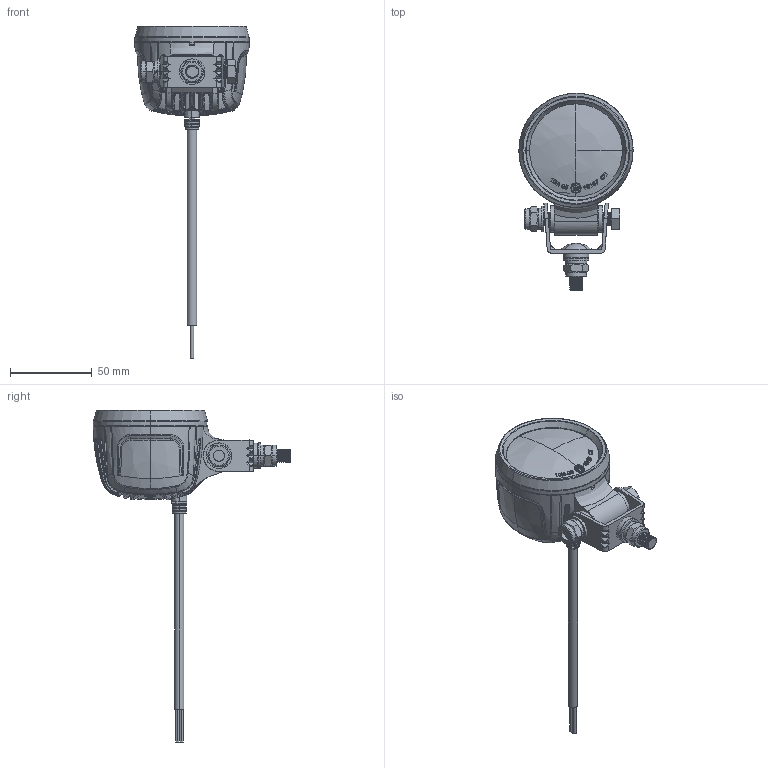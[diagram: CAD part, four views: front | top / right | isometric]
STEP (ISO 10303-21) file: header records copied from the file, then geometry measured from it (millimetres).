
FILE_DESCRIPTION(('CATIA V5 STEP Exchange','CAx-IF Rec.Pracs.--- Model Styling and Organization---1.5--- 2016-08-15','CAx-IF Rec.Pracs.---Supplemental Geometry---1.0---2011-11-01','CAx-IF Rec.Pracs.---Representation and Presentation of Product Manufacturing Information (PMI)---4.0---2014-10-13','CAx-IF Rec.Pracs.--- Composite Materials ---3.4---2017-06-13','CAx-IF Rec.Pracs.---Tessellated 3D Geometry---1.0---2015-12-17'),'2;1');
FILE_NAME('C:\Users\koebda1\OneDrive - FORVIA\Dokumente\996210-001_.stp','2026-01-20T11:20:15+00:00',('none'),('none'),'CATIA Version 5-6 Release 2022 SP3 HF41','CATIA V5 STEP AP242 v2','none');
FILE_SCHEMA(('AP242_MANAGED_MODEL_BASED_3D_ENGINEERING_MIM_LF {1 0 10303 442 3 1 4}'));
Length unit declared in the file: millimetre
Products named in the file (1): 10002284231_D10_001
Bounding box: 70 x 120.9 x 203.4 mm (x, y, z)
Volume: 177044.1 mm3; surface area: 53593 mm2
Topology: 4 solids, 11 shells, 3169 faces, 8265 edges, 5105 vertices
Faces by surface type: plane 757, cylinder 704, bspline 681, cone 423, extrusion 265, torus 184, sphere 155
Entity records: 207332 total; most frequent: CARTESIAN_POINT 143758, ORIENTED_EDGE 16270, EDGE_CURVE 8135, DIRECTION 7760, VERTEX_POINT 5105, B_SPLINE_CURVE_WITH_KNOTS 4971, AXIS2_PLACEMENT_3D 3399, EDGE_LOOP 3334
